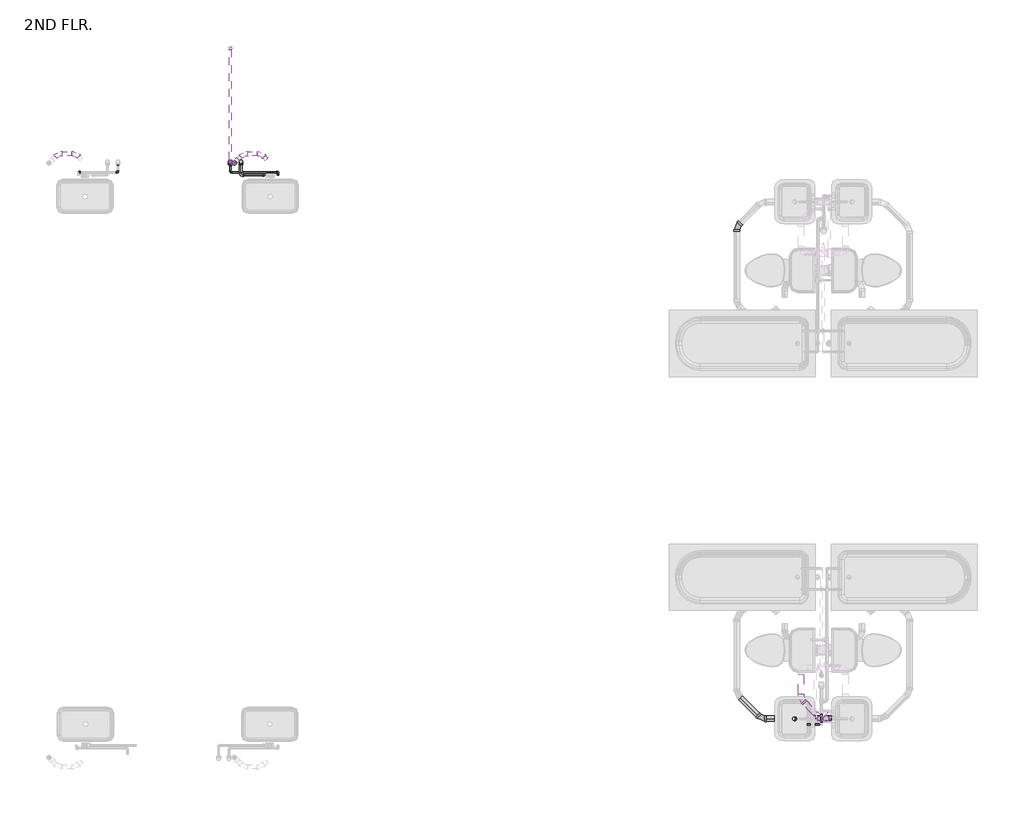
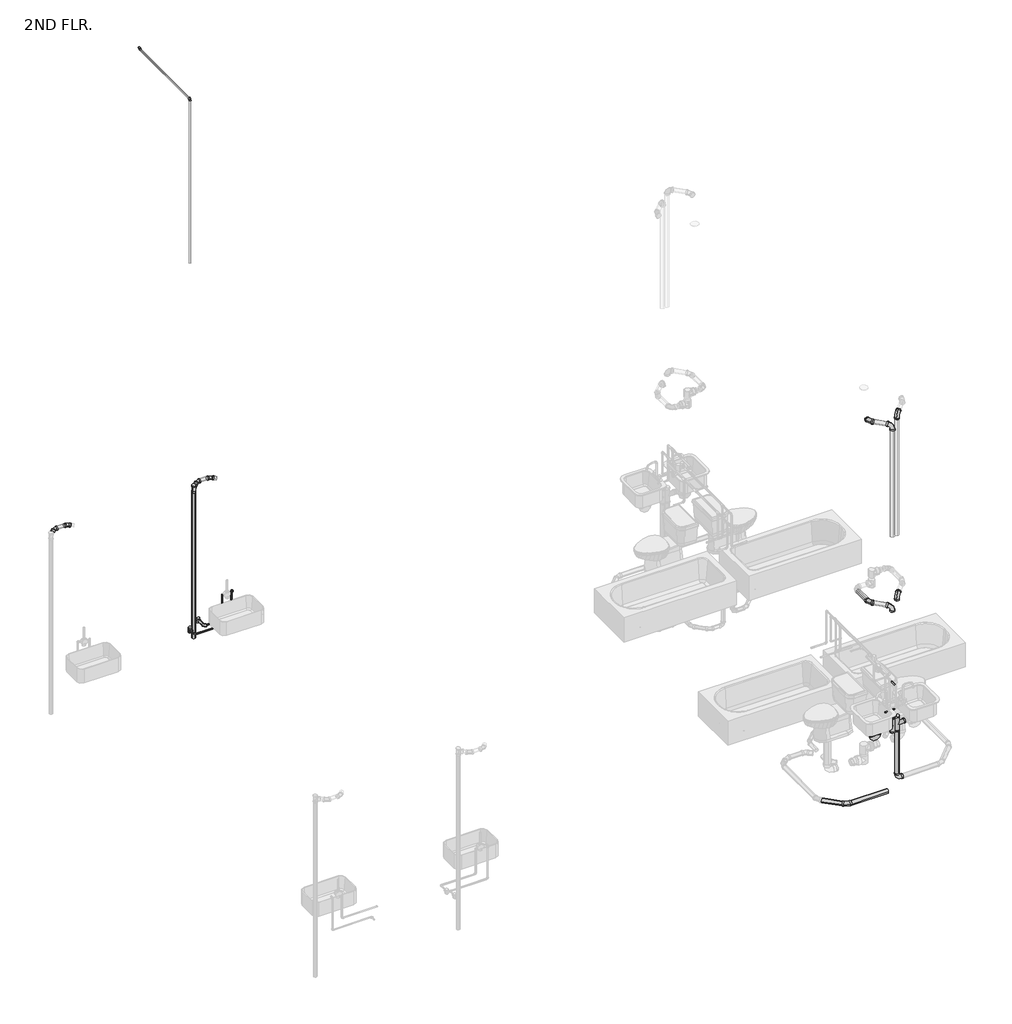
# One storey, part 9 of 15: 31 pipe fittings, 27 pipe segments.
"""IFC4 building model written with IfcOpenShell, lengths in millimetres."""

from ifc_helpers import new_model, si_unit, point, frame, frame_2d, origin, place, context, project, spatial, circle_curve, trimmed, segment, composite_curve, outline, extrude, transform, mapped, element, save
from ifc_brep_helpers import plane_surface, cylinder_surface, advanced_brep
from components import bend_pvc_sch_40_dwv_standard_e59a9f3a, bend_pvc_sch_40_dwv_standard_9b1ab2e2, bend_pvc_sch_40_dwv_standard_f2f5988a, bend_pvc_sch_40_dwv_standard_1eaeee76, bend_pvc_sch_40_dwv_standard_49f8c181, bend_pvc_sch_40_dwv_standard_f64d1520, ges_wye_45_deg_reducing_pvc_sch_40_dwv_standard_31e91cc2, ges_wye_45_deg_reducing_pvc_sch_40_dwv_standard_a2c526eb, pipe_elbow_copper_k_feaaf02c, pipe_elbow_copper_k_aad62f2d, pipe_elbow_copper_k_aee2f062, pipe_tee_copper_k_7127fd44, pipe_tee_copper_k_60c871d1, pipe_transition_copper_k_7553a2c5, pipe_transition_copper_k_0ad24bcb, pipe_transition_copper_k_4b29cc47, standard_73d07651, tee_sanitary_pvc_sch_40_dwv_standard_be04015c

model = new_model("IFC4")

# Units and contexts
model_context = context("Model", 3, world=origin())
ifc_project = project(units=[si_unit("LENGTHUNIT", "METRE", prefix="MILLI")], contexts=[model_context])

# Site, building, storey
site = spatial("IfcSite", under=ifc_project)
building = spatial("IfcBuilding", under=site)
storey = spatial("IfcBuildingStorey", under=building, Name="2ND FLR.", Elevation=2844.8)

# Pipe fittings
placement = place(None, origin())
bend_pvc_sch_40_dwv_standard_shape = bend_pvc_sch_40_dwv_standard_e59a9f3a(model_context)
element("IfcPipeFitting", 1, ObjectType="Bend - PVC - Sch 40 - DWV : Standard", at=placement, inside=storey, context=model_context, shape_type="MappedRepresentation", body=[
    mapped(bend_pvc_sch_40_dwv_standard_shape, transform((8361.3573795, 9017.693639, 5528.5325121), x_axis=(-0.7070684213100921, 0.7071067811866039, 0.007365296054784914), y_axis=(-0.7070684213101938, -0.7071067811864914, 0.007365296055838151), z_axis=(0.010416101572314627, 0.0, 0.9999457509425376))),
])
element("IfcPipeFitting", 2, ObjectType="Bend - PVC - Sch 40 - DWV : Standard", at=placement, inside=storey, context=model_context, shape_type="MappedRepresentation", body=[
    mapped(bend_pvc_sch_40_dwv_standard_shape, transform((10488.9508961, 9017.693639, 5528.5323192), x_axis=(-0.7070684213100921, 0.7071067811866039, 0.007365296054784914), y_axis=(-0.7070684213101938, -0.7071067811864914, 0.007365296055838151), z_axis=(0.010416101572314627, 0.0, 0.9999457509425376))),
])
bend_pvc_sch_40_dwv_standard_2_shape = bend_pvc_sch_40_dwv_standard_9b1ab2e2(model_context)
element("IfcPipeFitting", 3, ObjectType="Bend - PVC - Sch 40 - DWV : Standard", at=placement, inside=storey, context=model_context, shape_type="MappedRepresentation", body=[
    mapped(bend_pvc_sch_40_dwv_standard_2_shape, transform((8160.2854233, 9017.6936683, 5530.6337384), x_axis=(-0.9999457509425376, 0.0, 0.010416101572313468), y_axis=(4.542044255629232e-05, -0.9999904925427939, 0.004360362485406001), z_axis=(0.010416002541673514, 0.004360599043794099, 0.9999362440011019))),
])
element("IfcPipeFitting", 4, ObjectType="Bend - PVC - Sch 40 - DWV : Standard", at=placement, inside=storey, context=model_context, shape_type="MappedRepresentation", body=[
    mapped(bend_pvc_sch_40_dwv_standard_2_shape, transform((10287.7485788, 9017.6936704, 5530.6353945), x_axis=(-0.9999457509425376, 0.0, 0.010416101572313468), y_axis=(4.542044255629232e-05, -0.9999904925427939, 0.004360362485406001), z_axis=(0.010416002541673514, 0.004360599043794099, 0.9999362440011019))),
])
bend_pvc_sch_40_dwv_standard_3_shape = bend_pvc_sch_40_dwv_standard_f2f5988a(model_context)
element("IfcPipeFitting", 5, ObjectType="Bend - PVC - Sch 40 - DWV : Standard", at=placement, inside=storey, context=model_context, shape_type="MappedRepresentation", body=[
    mapped(bend_pvc_sch_40_dwv_standard_3_shape, transform((16231.2763671, 2535.4262323, 2303.4769275), x_axis=(0.7071067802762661, -0.7071067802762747, -5.074103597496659e-05), y_axis=(0.7071067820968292, 0.7071067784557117, 5.074103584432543e-05), z_axis=(0.0, -7.175866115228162e-05, 0.9999999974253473))),
])
element("IfcPipeFitting", 6, ObjectType="Bend - PVC - Sch 40 - DWV : Standard", at=placement, inside=storey, context=model_context, shape_type="MappedRepresentation", body=[
    mapped(bend_pvc_sch_40_dwv_standard_3_shape, transform((16688.3084874, 2755.8735933, 8039.0947608), x_axis=(2.761384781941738e-10, -0.9999999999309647, 1.1750347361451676e-05), y_axis=(0.9999999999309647, 1.3806781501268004e-10, -1.1750347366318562e-05), z_axis=(1.1750347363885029e-05, 1.175034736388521e-05, 0.9999999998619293))),
])
element("IfcPipeFitting", 7, ObjectType="Bend - PVC - Sch 40 - DWV : Standard", at=placement, inside=storey, context=model_context, shape_type="MappedRepresentation", body=[
    mapped(bend_pvc_sch_40_dwv_standard_3_shape, transform((16688.3084882, 2756.9013629, 5188.0113455), x_axis=(2.761384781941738e-10, -0.9999999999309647, 1.1750347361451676e-05), y_axis=(0.9999999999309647, 1.3806781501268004e-10, -1.1750347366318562e-05), z_axis=(1.1750347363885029e-05, 1.175034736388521e-05, 0.9999999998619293))),
])
bend_pvc_sch_40_dwv_standard_4_shape = bend_pvc_sch_40_dwv_standard_1eaeee76(model_context)
element("IfcPipeFitting", 8, ObjectType="Bend - PVC - Sch 40 - DWV : Standard", at=placement, inside=storey, context=model_context, shape_type="MappedRepresentation", body=[
    mapped(bend_pvc_sch_40_dwv_standard_4_shape, transform((16909.1822491, 2534.9998318, 8039.0947608), x_axis=(0.0, 0.0, 1.0), y_axis=(-0.7071067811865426, 0.7071067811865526, 0.0), z_axis=(-0.7071067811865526, -0.7071067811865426, 0.0))),
])
element("IfcPipeFitting", 9, ObjectType="Bend - PVC - Sch 40 - DWV : Standard", at=placement, inside=storey, context=model_context, shape_type="MappedRepresentation", body=[
    mapped(bend_pvc_sch_40_dwv_standard_4_shape, transform((16909.2449931, 2535.844278, 5187.9447608), x_axis=(0.0, 0.0, 1.0), y_axis=(-0.7071067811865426, 0.7071067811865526, 0.0), z_axis=(-0.7071067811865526, -0.7071067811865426, 0.0))),
])
bend_pvc_sch_40_dwv_standard_5_shape = bend_pvc_sch_40_dwv_standard_49f8c181(model_context)
element("IfcPipeFitting", 10, ObjectType="Bend - PVC - Sch 40 - DWV : Standard", at=placement, inside=storey, context=model_context, shape_type="MappedRepresentation", body=[
    mapped(bend_pvc_sch_40_dwv_standard_5_shape, transform((16975.4347258, 2535.4334771, 2461.1578227), x_axis=(0.0, 0.0, -1.0), y_axis=(-1.0, 0.0, 0.0), z_axis=(0.0, 1.0, 0.0))),
])
element("IfcPipeFitting", 11, ObjectType="Bend - PVC - Sch 40 - DWV : Standard", at=placement, inside=storey, context=model_context, shape_type="MappedRepresentation", body=[
    mapped(bend_pvc_sch_40_dwv_standard_5_shape, transform((16975.4348028, 2535.0251221, 8191.495709), x_axis=(0.0, 0.0, 1.0), y_axis=(-0.7071067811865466, -0.7071067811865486, 0.0), z_axis=(0.7071067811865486, -0.7071067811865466, 0.0))),
])
element("IfcPipeFitting", 12, ObjectType="Bend - PVC - Sch 40 - DWV : Standard", at=placement, inside=storey, context=model_context, shape_type="MappedRepresentation", body=[
    mapped(bend_pvc_sch_40_dwv_standard_5_shape, transform((16975.4348028, 2535.7814571, 5340.345709), x_axis=(0.0, 0.0, 1.0), y_axis=(-0.7071067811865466, -0.7071067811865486, 0.0), z_axis=(0.7071067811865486, -0.7071067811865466, 0.0))),
])
bend_pvc_sch_40_dwv_standard_6_shape = bend_pvc_sch_40_dwv_standard_f64d1520(model_context)
element("IfcPipeFitting", 13, ObjectType="Bend - PVC - Sch 40 - DWV : Standard", at=placement, inside=storey, context=model_context, shape_type="MappedRepresentation", body=[
    mapped(bend_pvc_sch_40_dwv_standard_6_shape, transform((15951.6578381, 8185.6790175, 2291.1952447), x_axis=(0.0, 1.0, 0.0), y_axis=(-0.9999999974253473, 0.0, 7.175866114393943e-05), z_axis=(7.175866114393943e-05, 0.0, 0.9999999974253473))),
])
ges_wye_45_deg_reducing_pvc_sch_40_dwv_standard_shape = ges_wye_45_deg_reducing_pvc_sch_40_dwv_standard_31e91cc2(model_context)
element("IfcPipeFitting", 14, ObjectType="GES Wye 45 Deg Reducing - PVC - Sch 40 - DWV : Standard", at=placement, inside=storey, context=model_context, shape_type="MappedRepresentation", body=[
    mapped(ges_wye_45_deg_reducing_pvc_sch_40_dwv_standard_shape, transform((16909.1822491, 2535.781534, 3322.6721683), x_axis=(0.0, 0.0, 1.0), y_axis=(1.0, 0.0, 0.0), z_axis=(0.0, 1.0, 0.0))),
])
ges_wye_45_deg_reducing_pvc_sch_40_dwv_standard_2_shape = ges_wye_45_deg_reducing_pvc_sch_40_dwv_standard_a2c526eb(model_context)
element("IfcPipeFitting", 15, ObjectType="GES Wye 45 Deg Reducing - PVC - Sch 40 - DWV : Standard", at=placement, inside=storey, context=model_context, shape_type="MappedRepresentation", body=[
    mapped(ges_wye_45_deg_reducing_pvc_sch_40_dwv_standard_2_shape, transform((16975.4347258, 2535.4334771, 3322.6721683), x_axis=(0.0, 0.0, 1.0), y_axis=(1.0, 0.0, 0.0), z_axis=(0.0, 1.0, 0.0))),
])
pipe_elbow_copper_k_shape = pipe_elbow_copper_k_feaaf02c(model_context)
element("IfcPipeFitting", 16, ObjectType="Pipe Elbow : Copper- K", at=placement, inside=storey, context=model_context, shape_type="MappedRepresentation", body=[
    mapped(pipe_elbow_copper_k_shape, transform((10136.7487434, 8927.8175381, 11660.0882812), x_axis=(0.0, 0.0, 1.0), y_axis=(0.0, 1.0, 0.0), z_axis=(-1.0, 0.0, 0.0))),
])
element("IfcPipeFitting", 17, ObjectType="Pipe Elbow : Copper- K", at=placement, inside=storey, context=model_context, shape_type="MappedRepresentation", body=[
    mapped(pipe_elbow_copper_k_shape, transform((10136.7487434, 10234.3300381, 11660.0882812), x_axis=(0.0, 1.0, 0.0), y_axis=(0.0, 0.0, 1.0), z_axis=(1.0, 0.0, 0.0))),
])
pipe_elbow_copper_k_2_shape = pipe_elbow_copper_k_aad62f2d(model_context)
element("IfcPipeFitting", 18, ObjectType="Pipe Elbow : Copper- K", at=placement, inside=storey, context=model_context, shape_type="MappedRepresentation", body=[
    mapped(pipe_elbow_copper_k_2_shape, transform((8392.4641516, 8806.2157662, 3307.0601563), x_axis=(0.0, 0.0, -1.0), y_axis=(1.0, 0.0, 0.0), z_axis=(0.0, -1.0, 0.0))),
])
element("IfcPipeFitting", 19, ObjectType="Pipe Elbow : Copper- K", at=placement, inside=storey, context=model_context, shape_type="MappedRepresentation", body=[
    mapped(pipe_elbow_copper_k_2_shape, transform((8845.7410297, 8806.2157662, 3307.0601563), x_axis=(1.0, 0.0, 0.0), y_axis=(0.0, 1.0, 0.0), z_axis=(0.0, 0.0, 1.0))),
])
element("IfcPipeFitting", 20, ObjectType="Pipe Elbow : Copper- K", at=placement, inside=storey, context=model_context, shape_type="MappedRepresentation", body=[
    mapped(pipe_elbow_copper_k_2_shape, transform((10682.8459876, 8806.2157662, 3815.0601562), x_axis=(0.0, 0.0, 1.0), y_axis=(0.0, -1.0, 0.0), z_axis=(1.0, 0.0, 0.0))),
])
element("IfcPipeFitting", 21, ObjectType="Pipe Elbow : Copper- K", at=placement, inside=storey, context=model_context, shape_type="MappedRepresentation", body=[
    mapped(pipe_elbow_copper_k_2_shape, transform((10525.5938015, 8774.1278432, 3418.8796883), x_axis=(0.0, 0.0, -1.0), y_axis=(-1.0, 0.0, 0.0), z_axis=(0.0, 1.0, 0.0))),
])
element("IfcPipeFitting", 22, ObjectType="Pipe Elbow : Copper- K", at=placement, inside=storey, context=model_context, shape_type="MappedRepresentation", body=[
    mapped(pipe_elbow_copper_k_2_shape, transform((10136.7487434, 8806.2157662, 3307.0601563), x_axis=(0.0, -1.0, 0.0), y_axis=(1.0, 0.0, 0.0), z_axis=(0.0, 0.0, 1.0))),
])
element("IfcPipeFitting", 23, ObjectType="Pipe Elbow : Copper- K", at=placement, inside=storey, context=model_context, shape_type="MappedRepresentation", body=[
    mapped(pipe_elbow_copper_k_2_shape, transform((10682.8459876, 8806.2157662, 3307.0601563), x_axis=(0.0, 0.0, -1.0), y_axis=(-1.0, 0.0, 0.0), z_axis=(0.0, 1.0, 0.0))),
])
pipe_elbow_copper_k_3_shape = pipe_elbow_copper_k_aee2f062(model_context)
element("IfcPipeFitting", 24, ObjectType="Pipe Elbow : Copper- K", at=placement, inside=storey, context=model_context, shape_type="MappedRepresentation", body=[
    mapped(pipe_elbow_copper_k_3_shape, transform((10257.4812856, 8774.1278432, 3418.8796883), x_axis=(0.0, -1.0, 0.0), y_axis=(1.0, 0.0, 0.0), z_axis=(0.0, 0.0, 1.0))),
])
pipe_tee_copper_k_shape = pipe_tee_copper_k_7127fd44(model_context)
element("IfcPipeFitting", 25, ObjectType="Pipe Tee : Copper- K", at=placement, inside=storey, context=model_context, shape_type="MappedRepresentation", body=[
    mapped(pipe_tee_copper_k_shape, transform((10136.7487434, 8927.8175381, 3307.0601563), x_axis=(0.0, 0.0, 1.0), y_axis=(0.0, 1.0, 0.0), z_axis=(-1.0, 0.0, 0.0))),
])
pipe_tee_copper_k_2_shape = pipe_tee_copper_k_60c871d1(model_context)
element("IfcPipeFitting", 26, ObjectType="Pipe Tee : Copper- K", at=placement, inside=storey, context=model_context, shape_type="MappedRepresentation", body=[
    mapped(pipe_tee_copper_k_2_shape, transform((10257.4812856, 8927.8175381, 3418.8796883), x_axis=(0.0, 0.0, 1.0), y_axis=(0.0, 1.0, 0.0), z_axis=(-1.0, 0.0, 0.0))),
])
pipe_transition_copper_k_shape = pipe_transition_copper_k_7553a2c5(model_context)
element("IfcPipeFitting", 27, ObjectType="Pipe Transition : Copper- K", at=placement, inside=storey, context=model_context, shape_type="MappedRepresentation", body=[
    mapped(pipe_transition_copper_k_shape, transform((10284.4687856, 8774.1278432, 3418.8796883), x_axis=(1.0, 0.0, 0.0), y_axis=(0.0, 1.0, 0.0), z_axis=(0.0, 0.0, 1.0))),
])
pipe_transition_copper_k_2_shape = pipe_transition_copper_k_0ad24bcb(model_context)
element("IfcPipeFitting", 28, ObjectType="Pipe Transition : Copper- K", at=placement, inside=storey, context=model_context, shape_type="MappedRepresentation", body=[
    mapped(pipe_transition_copper_k_2_shape, transform((10136.7487434, 8891.3050381, 3307.0601563), x_axis=(0.0, -1.0, 0.0), y_axis=(1.0, 0.0, 0.0), z_axis=(0.0, 0.0, 1.0))),
])
pipe_transition_copper_k_3_shape = pipe_transition_copper_k_4b29cc47(model_context)
element("IfcPipeFitting", 29, ObjectType="Pipe Transition : Copper- K", at=placement, inside=storey, context=model_context, shape_type="MappedRepresentation", body=[
    mapped(pipe_transition_copper_k_3_shape, transform((8845.7410297, 8894.4800381, 3307.0601563), x_axis=(0.0, -1.0, 0.0), y_axis=(1.0, 0.0, 0.0), z_axis=(0.0, 0.0, 1.0))),
])
standard_shape = standard_73d07651(model_context)
element("IfcPipeFitting", 30, ObjectType="GES P TRAP PVC Sch 40 - DWV : Standard", at=placement, inside=storey, context=model_context, shape_type="MappedRepresentation", body=[
    mapped(standard_shape, transform((16589.3699643, 2535.781534, 3322.6721683), x_axis=(0.0, 0.0, -1.0), y_axis=(1.0, 0.0, 0.0), z_axis=(0.0, -1.0, 0.0))),
])
tee_sanitary_pvc_sch_40_dwv_standard_shape = tee_sanitary_pvc_sch_40_dwv_standard_be04015c(model_context)
element("IfcPipeFitting", 31, ObjectType="Tee Sanitary - PVC - Sch 40 - DWV : Standard", at=placement, inside=storey, context=model_context, shape_type="MappedRepresentation", body=[
    mapped(tee_sanitary_pvc_sch_40_dwv_standard_shape, transform((10181.640043, 8912.4094236, 5532.1998234), x_axis=(0.0, 0.0, 1.0), y_axis=(-0.7098586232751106, -0.7043441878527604, 0.0), z_axis=(0.7043441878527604, -0.7098586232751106, 0.0))),
])

# Pipe segments
element("IfcPipeSegment", 32, ObjectType="Copper", at=placement, inside=storey, context=model_context, shape_type="SweptSolid", body=[
    extrude(outline(composite_curve([segment(trimmed(circle_curve(frame_2d((10136.7487434, 8927.8175381)), 11.1125), [point((10125.6362434, 8927.8175381))], [point((10136.7487434, 8938.9300381))], False, "CARTESIAN"), True, "CONTINUOUS"), segment(trimmed(circle_curve(frame_2d((10136.7487434, 8927.8175381)), 11.1125), [point((10136.7487434, 8938.9300381))], [point((10147.8612434, 8927.8175381))], False, "CARTESIAN"), True, "CONTINUOUS"), segment(trimmed(circle_curve(frame_2d((10136.7487434, 8927.8175381)), 11.1125), [point((10147.8612434, 8927.8175381))], [point((10136.7487434, 8916.7050381))], False, "CARTESIAN"), True, "CONTINUOUS"), segment(trimmed(circle_curve(frame_2d((10136.7487434, 8927.8175381)), 11.1125), [point((10136.7487434, 8916.7050381))], [point((10125.6362434, 8927.8175381))], False, "CARTESIAN"), True, "CONTINUOUS")], self_intersect=False)), frame((0.0, 0.0, 9079.6070313), z_axis=(0.0, 0.0, 1.0), x_axis=(1.0, 0.0, 0.0)), (0.0, 0.0, 1.0), 2559.84375),
])
element("IfcPipeSegment", 33, ObjectType="Copper", at=placement, inside=storey, context=model_context, shape_type="SweptSolid", body=[
    extrude(outline(composite_curve([segment(trimmed(circle_curve(frame_2d((11660.0882813, 10136.7487434)), 11.1125), [point((11660.0882813, 10147.8612434))], [point((11671.2007813, 10136.7487434))], False, "CARTESIAN"), True, "CONTINUOUS"), segment(trimmed(circle_curve(frame_2d((11660.0882813, 10136.7487434)), 11.1125), [point((11671.2007813, 10136.7487434))], [point((11660.0882813, 10125.6362434))], False, "CARTESIAN"), True, "CONTINUOUS"), segment(trimmed(circle_curve(frame_2d((11660.0882813, 10136.7487434)), 11.1125), [point((11660.0882813, 10125.6362434))], [point((11648.9757813, 10136.7487434))], False, "CARTESIAN"), True, "CONTINUOUS"), segment(trimmed(circle_curve(frame_2d((11660.0882813, 10136.7487434)), 11.1125), [point((11648.9757813, 10136.7487434))], [point((11660.0882813, 10147.8612434))], False, "CARTESIAN"), True, "CONTINUOUS")], self_intersect=False)), frame((0.0, 8948.4550381, 0.0), z_axis=(0.0, 1.0, 0.0), x_axis=(0.0, 0.0, 1.0)), (0.0, 0.0, 1.0), 1265.2375),
])
element("IfcPipeSegment", 34, ObjectType="Copper", at=placement, inside=storey, context=model_context, shape_type="SweptSolid", body=[
    extrude(outline(composite_curve([segment(trimmed(circle_curve(frame_2d((3962.4, 16920.4834875)), 7.9375), [point((3962.4, 16912.5459875))], [point((3954.4625, 16920.4834875))], False, "CARTESIAN"), True, "CONTINUOUS"), segment(trimmed(circle_curve(frame_2d((3962.4, 16920.4834875)), 7.9375), [point((3954.4625, 16920.4834875))], [point((3962.4, 16928.4209875))], False, "CARTESIAN"), True, "CONTINUOUS"), segment(trimmed(circle_curve(frame_2d((3962.4, 16920.4834875)), 7.9375), [point((3962.4, 16928.4209875))], [point((3970.3375, 16920.4834875))], False, "CARTESIAN"), True, "CONTINUOUS"), segment(trimmed(circle_curve(frame_2d((3962.4, 16920.4834875)), 7.9375), [point((3970.3375, 16920.4834875))], [point((3962.4, 16912.5459875))], False, "CARTESIAN"), True, "CONTINUOUS")], self_intersect=False)), frame((0.0, 2485.6574561, 0.0), z_axis=(0.0, 1.0, 0.0), x_axis=(0.0, 0.0, 1.0)), (0.0, 0.0, 1.0), 102.6523264),
])
element("IfcPipeSegment", 35, ObjectType="Copper", at=placement, inside=storey, context=model_context, shape_type="SweptSolid", body=[
    extrude(outline(composite_curve([segment(trimmed(circle_curve(frame_2d((2468.1949561, 3606.8)), 7.9375), [point((2476.1324561, 3606.8))], [point((2468.1949561, 3598.8625))], False, "CARTESIAN"), True, "CONTINUOUS"), segment(trimmed(circle_curve(frame_2d((2468.1949561, 3606.8)), 7.9375), [point((2468.1949561, 3598.8625))], [point((2460.2574561, 3606.8))], False, "CARTESIAN"), True, "CONTINUOUS"), segment(trimmed(circle_curve(frame_2d((2468.1949561, 3606.8)), 7.9375), [point((2460.2574561, 3606.8))], [point((2468.1949561, 3614.7375))], False, "CARTESIAN"), True, "CONTINUOUS"), segment(trimmed(circle_curve(frame_2d((2468.1949561, 3606.8)), 7.9375), [point((2468.1949561, 3614.7375))], [point((2476.1324561, 3606.8))], False, "CARTESIAN"), True, "CONTINUOUS")], self_intersect=False)), frame((16758.5584875, 0.0, 0.0), z_axis=(1.0, 0.0, 0.0), x_axis=(0.0, 1.0, 0.0)), (0.0, 0.0, 1.0), 144.4625),
])
element("IfcPipeSegment", 36, ObjectType="Copper", at=placement, inside=storey, context=model_context, shape_type="SweptSolid", body=[
    extrude(outline(composite_curve([segment(trimmed(circle_curve(frame_2d((3815.0601563, 10682.8459876)), 7.9375), [point((3815.0601563, 10674.9084876))], [point((3807.1226563, 10682.8459876))], False, "CARTESIAN"), True, "CONTINUOUS"), segment(trimmed(circle_curve(frame_2d((3815.0601563, 10682.8459876)), 7.9375), [point((3807.1226563, 10682.8459876))], [point((3815.0601563, 10690.7834876))], False, "CARTESIAN"), True, "CONTINUOUS"), segment(trimmed(circle_curve(frame_2d((3815.0601563, 10682.8459876)), 7.9375), [point((3815.0601563, 10690.7834876))], [point((3822.9976563, 10682.8459876))], False, "CARTESIAN"), True, "CONTINUOUS"), segment(trimmed(circle_curve(frame_2d((3815.0601563, 10682.8459876)), 7.9375), [point((3822.9976563, 10682.8459876))], [point((3815.0601563, 10674.9084876))], False, "CARTESIAN"), True, "CONTINUOUS")], self_intersect=False)), frame((0.0, 8771.4354504, 0.0), z_axis=(0.0, 1.0, 0.0), x_axis=(0.0, 0.0, 1.0)), (0.0, 0.0, 1.0), 17.3178158),
])
element("IfcPipeSegment", 37, ObjectType="Copper", at=placement, inside=storey, context=model_context, shape_type="SweptSolid", body=[
    extrude(outline(composite_curve([segment(trimmed(circle_curve(frame_2d((8774.1278432, 3418.8796883)), 7.9375), [point((8766.1903432, 3418.8796883))], [point((8774.1278432, 3426.8171883))], False, "CARTESIAN"), True, "CONTINUOUS"), segment(trimmed(circle_curve(frame_2d((8774.1278432, 3418.8796883)), 7.9375), [point((8774.1278432, 3426.8171883))], [point((8782.0653432, 3418.8796883))], False, "CARTESIAN"), True, "CONTINUOUS"), segment(trimmed(circle_curve(frame_2d((8774.1278432, 3418.8796883)), 7.9375), [point((8782.0653432, 3418.8796883))], [point((8774.1278432, 3410.9421883))], False, "CARTESIAN"), True, "CONTINUOUS"), segment(trimmed(circle_curve(frame_2d((8774.1278432, 3418.8796883)), 7.9375), [point((8774.1278432, 3410.9421883))], [point((8766.1903432, 3418.8796883))], False, "CARTESIAN"), True, "CONTINUOUS")], self_intersect=False)), frame((10293.2000356, 0.0, 0.0), z_axis=(1.0, 0.0, 0.0), x_axis=(0.0, 1.0, 0.0)), (0.0, 0.0, 1.0), 214.9312659),
])
element("IfcPipeSegment", 38, ObjectType="Copper", at=placement, inside=storey, context=model_context, shape_type="SweptSolid", body=[
    extrude(outline(composite_curve([segment(trimmed(circle_curve(frame_2d((10525.5938015, 8774.1278432)), 7.9375), [point((10517.6563015, 8774.1278432))], [point((10525.5938015, 8782.0653432))], False, "CARTESIAN"), True, "CONTINUOUS"), segment(trimmed(circle_curve(frame_2d((10525.5938015, 8774.1278432)), 7.9375), [point((10525.5938015, 8782.0653432))], [point((10533.5313015, 8774.1278432))], False, "CARTESIAN"), True, "CONTINUOUS"), segment(trimmed(circle_curve(frame_2d((10525.5938015, 8774.1278432)), 7.9375), [point((10533.5313015, 8774.1278432))], [point((10525.5938015, 8766.1903432))], False, "CARTESIAN"), True, "CONTINUOUS"), segment(trimmed(circle_curve(frame_2d((10525.5938015, 8774.1278432)), 7.9375), [point((10525.5938015, 8766.1903432))], [point((10517.6563015, 8774.1278432))], False, "CARTESIAN"), True, "CONTINUOUS")], self_intersect=False)), frame((0.0, 0.0, 3436.3421883), z_axis=(0.0, 0.0, 1.0), x_axis=(1.0, 0.0, 0.0)), (0.0, 0.0, 1.0), 378.7179679),
])
element("IfcPipeSegment", 39, ObjectType="Copper", at=placement, inside=storey, context=model_context, shape_type="SweptSolid", body=[
    extrude(outline(composite_curve([segment(trimmed(circle_curve(frame_2d((8806.2157662, 3307.0601563)), 7.9375), [point((8798.2782662, 3307.0601563))], [point((8806.2157662, 3314.9976563))], False, "CARTESIAN"), True, "CONTINUOUS"), segment(trimmed(circle_curve(frame_2d((8806.2157662, 3307.0601563)), 7.9375), [point((8806.2157662, 3314.9976563))], [point((8814.1532662, 3307.0601563))], False, "CARTESIAN"), True, "CONTINUOUS"), segment(trimmed(circle_curve(frame_2d((8806.2157662, 3307.0601563)), 7.9375), [point((8814.1532662, 3307.0601563))], [point((8806.2157662, 3299.1226563))], False, "CARTESIAN"), True, "CONTINUOUS"), segment(trimmed(circle_curve(frame_2d((8806.2157662, 3307.0601563)), 7.9375), [point((8806.2157662, 3299.1226563))], [point((8798.2782662, 3307.0601563))], False, "CARTESIAN"), True, "CONTINUOUS")], self_intersect=False)), frame((10154.2112434, 0.0, 0.0), z_axis=(1.0, 0.0, 0.0), x_axis=(0.0, 1.0, 0.0)), (0.0, 0.0, 1.0), 511.1722442),
])
element("IfcPipeSegment", 40, ObjectType="Copper", at=placement, inside=storey, context=model_context, shape_type="SweptSolid", body=[
    extrude(outline(composite_curve([segment(trimmed(circle_curve(frame_2d((10682.8459876, 8806.2157662)), 7.9375), [point((10674.9084876, 8806.2157662))], [point((10682.8459876, 8814.1532662))], False, "CARTESIAN"), True, "CONTINUOUS"), segment(trimmed(circle_curve(frame_2d((10682.8459876, 8806.2157662)), 7.9375), [point((10682.8459876, 8814.1532662))], [point((10690.7834876, 8806.2157662))], False, "CARTESIAN"), True, "CONTINUOUS"), segment(trimmed(circle_curve(frame_2d((10682.8459876, 8806.2157662)), 7.9375), [point((10690.7834876, 8806.2157662))], [point((10682.8459876, 8798.2782662))], False, "CARTESIAN"), True, "CONTINUOUS"), segment(trimmed(circle_curve(frame_2d((10682.8459876, 8806.2157662)), 7.9375), [point((10682.8459876, 8798.2782662))], [point((10674.9084876, 8806.2157662))], False, "CARTESIAN"), True, "CONTINUOUS")], self_intersect=False)), frame((0.0, 0.0, 3324.5226563), z_axis=(0.0, 0.0, 1.0), x_axis=(1.0, 0.0, 0.0)), (0.0, 0.0, 1.0), 473.075),
])
element("IfcPipeSegment", 41, ObjectType="Copper", at=placement, inside=storey, context=model_context, shape_type="SweptSolid", body=[
    extrude(outline(composite_curve([segment(trimmed(circle_curve(frame_2d((3418.8796883, 10257.4812856)), 17.4625), [point((3418.8796883, 10240.0187856))], [point((3401.4171883, 10257.4812856))], False, "CARTESIAN"), True, "CONTINUOUS"), segment(trimmed(circle_curve(frame_2d((3418.8796883, 10257.4812856)), 17.4625), [point((3401.4171883, 10257.4812856))], [point((3418.8796883, 10274.9437856))], False, "CARTESIAN"), True, "CONTINUOUS"), segment(trimmed(circle_curve(frame_2d((3418.8796883, 10257.4812856)), 17.4625), [point((3418.8796883, 10274.9437856))], [point((3436.3421883, 10257.4812856))], False, "CARTESIAN"), True, "CONTINUOUS"), segment(trimmed(circle_curve(frame_2d((3418.8796883, 10257.4812856)), 17.4625), [point((3436.3421883, 10257.4812856))], [point((3418.8796883, 10240.0187856))], False, "CARTESIAN"), True, "CONTINUOUS")], self_intersect=False)), frame((0.0, 8801.1153432, 0.0), z_axis=(0.0, 1.0, 0.0), x_axis=(0.0, 0.0, 1.0)), (0.0, 0.0, 1.0), 93.3646948),
])
element("IfcPipeSegment", 42, ObjectType="Copper", at=placement, inside=storey, context=model_context, shape_type="SweptSolid", body=[
    extrude(outline(composite_curve([segment(trimmed(circle_curve(frame_2d((3307.0601563, 10136.7487434)), 7.9375), [point((3307.0601563, 10128.8112434))], [point((3299.1226563, 10136.7487434))], False, "CARTESIAN"), True, "CONTINUOUS"), segment(trimmed(circle_curve(frame_2d((3307.0601563, 10136.7487434)), 7.9375), [point((3299.1226563, 10136.7487434))], [point((3307.0601563, 10144.6862434))], False, "CARTESIAN"), True, "CONTINUOUS"), segment(trimmed(circle_curve(frame_2d((3307.0601563, 10136.7487434)), 7.9375), [point((3307.0601563, 10144.6862434))], [point((3314.9976563, 10136.7487434))], False, "CARTESIAN"), True, "CONTINUOUS"), segment(trimmed(circle_curve(frame_2d((3307.0601563, 10136.7487434)), 7.9375), [point((3314.9976563, 10136.7487434))], [point((3307.0601563, 10128.8112434))], False, "CARTESIAN"), True, "CONTINUOUS")], self_intersect=False)), frame((0.0, 8823.6782662, 0.0), z_axis=(0.0, 1.0, 0.0), x_axis=(0.0, 0.0, 1.0)), (0.0, 0.0, 1.0), 57.3080218),
])
element("IfcPipeSegment", 43, ObjectType="PVC - SAN/STORM", at=placement, inside=storey, context=model_context, shape_type="SweptSolid", body=[
    extrude(outline(composite_curve([segment(trimmed(circle_curve(frame_2d((0.0, 24.13)), 24.13), [point((0.0006196, 48.26))], [point((24.13, 24.1293804))], False, "CARTESIAN"), True, "CONTINUOUS"), segment(trimmed(circle_curve(frame_2d((0.0, 24.13)), 24.13), [point((24.13, 24.1293804))], [point((-0.0006195, 0.0))], False, "CARTESIAN"), True, "CONTINUOUS"), segment(trimmed(circle_curve(frame_2d((0.0, 24.13)), 24.13), [point((-0.0006195, 0.0))], [point((-24.13, 24.1306195))], False, "CARTESIAN"), True, "CONTINUOUS"), segment(trimmed(circle_curve(frame_2d((0.0, 24.13)), 24.13), [point((-24.13, 24.1306195))], [point((0.0006196, 48.26))], False, "CARTESIAN"), True, "CONTINUOUS")], self_intersect=False)), frame((8315.3350763, 8993.563639, 5529.0125306), z_axis=(-0.999945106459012, 2.6901267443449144e-07, 0.010477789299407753), x_axis=(0.010477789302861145, 2.5673154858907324e-05, 0.9999451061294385)), (0.0, 0.0, 1.0), 109.033335),
])
element("IfcPipeSegment", 44, ObjectType="PVC - SAN/STORM", at=placement, inside=storey, context=model_context, shape_type="SweptSolid", body=[
    extrude(outline(composite_curve([segment(trimmed(circle_curve(frame_2d((0.0, 24.13)), 24.13), [point((24.1293456, 24.3077101))], [point((0.1777101, 0.0006544))], False, "CARTESIAN"), True, "CONTINUOUS"), segment(trimmed(circle_curve(frame_2d((0.0, 24.13)), 24.13), [point((0.1777101, 0.0006544))], [point((-24.1293456, 23.9522899))], False, "CARTESIAN"), True, "CONTINUOUS"), segment(trimmed(circle_curve(frame_2d((0.0, 24.13)), 24.13), [point((-24.1293456, 23.9522899))], [point((-0.1777101, 48.2593456))], False, "CARTESIAN"), True, "CONTINUOUS"), segment(trimmed(circle_curve(frame_2d((0.0, 24.13)), 24.13), [point((-0.1777101, 48.2593456))], [point((24.1293456, 24.3077101))], False, "CARTESIAN"), True, "CONTINUOUS")], self_intersect=False)), frame((10551.3413086, 8955.0485148, 5552.0111102), z_axis=(-0.707068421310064, 0.7071067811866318, 0.007365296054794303), x_axis=(0.7071451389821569, 0.7070300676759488, 0.007364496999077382)), (0.0, 0.0, 1.0), 42.2133542),
])
element("IfcPipeSegment", 45, ObjectType="PVC - SAN/STORM", at=placement, inside=storey, context=model_context, shape_type="SweptSolid", body=[
    extrude(outline(composite_curve([segment(trimmed(circle_curve(frame_2d((0.0, 24.13)), 24.13), [point((0.0006637, 48.26))], [point((24.13, 24.1293363))], False, "CARTESIAN"), True, "CONTINUOUS"), segment(trimmed(circle_curve(frame_2d((0.0, 24.13)), 24.13), [point((24.13, 24.1293363))], [point((-0.0006637, 0.0))], False, "CARTESIAN"), True, "CONTINUOUS"), segment(trimmed(circle_curve(frame_2d((0.0, 24.13)), 24.13), [point((-0.0006637, 0.0))], [point((-24.13, 24.1306637))], False, "CARTESIAN"), True, "CONTINUOUS"), segment(trimmed(circle_curve(frame_2d((0.0, 24.13)), 24.13), [point((-24.13, 24.1306637))], [point((0.0006637, 48.26))], False, "CARTESIAN"), True, "CONTINUOUS")], self_intersect=False)), frame((10442.9285929, 8993.563639, 5529.0123819), z_axis=(-0.9999450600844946, 2.883087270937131e-07, 0.010482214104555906), x_axis=(0.010482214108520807, 2.7503052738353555e-05, 0.9999450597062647)), (0.0, 0.0, 1.0), 109.1637084),
])
element("IfcPipeSegment", 46, ObjectType="PVC - SAN/STORM", at=placement, inside=storey, context=model_context, shape_type="SweptSolid", body=[
    extrude(outline(composite_curve([segment(trimmed(circle_curve(frame_2d((0.0, 24.13)), 24.13), [point((-24.128658, 24.3844918))], [point((0.2544917, 48.2586579))], False, "CARTESIAN"), True, "CONTINUOUS"), segment(trimmed(circle_curve(frame_2d((0.0, 24.13)), 24.13), [point((0.2544917, 48.2586579))], [point((24.1286579, 23.8755083))], False, "CARTESIAN"), True, "CONTINUOUS"), segment(trimmed(circle_curve(frame_2d((0.0, 24.13)), 24.13), [point((24.1286579, 23.8755083))], [point((-0.2544917, 0.001342))], False, "CARTESIAN"), True, "CONTINUOUS"), segment(trimmed(circle_curve(frame_2d((0.0, 24.13)), 24.13), [point((-0.2544917, 0.001342))], [point((-24.128658, 24.3844918))], False, "CARTESIAN"), True, "CONTINUOUS")], self_intersect=False)), frame((10255.0792668, 8984.9196349, 5506.9897234), z_axis=(-0.709819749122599, -0.7043056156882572, 0.010465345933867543), x_axis=(0.7043833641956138, -0.7097414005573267, 0.010546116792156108)), (0.0, 0.0, 1.0), 41.5619928),
])
element("IfcPipeSegment", 47, ObjectType="PVC - SAN/STORM", at=placement, inside=storey, context=model_context, shape_type="SweptSolid", body=[
    extrude(outline(composite_curve([segment(trimmed(circle_curve(frame_2d((10181.640043, 8912.4094236)), 24.13), [point((10205.770043, 8912.4094236))], [point((10181.640043, 8888.2794236))], False, "CARTESIAN"), True, "CONTINUOUS"), segment(trimmed(circle_curve(frame_2d((10181.640043, 8912.4094236)), 24.13), [point((10181.640043, 8888.2794236))], [point((10157.510043, 8912.4094236))], False, "CARTESIAN"), True, "CONTINUOUS"), segment(trimmed(circle_curve(frame_2d((10181.640043, 8912.4094236)), 24.13), [point((10157.510043, 8912.4094236))], [point((10181.640043, 8936.5394236))], False, "CARTESIAN"), True, "CONTINUOUS"), segment(trimmed(circle_curve(frame_2d((10181.640043, 8912.4094236)), 24.13), [point((10181.640043, 8936.5394236))], [point((10205.770043, 8912.4094236))], False, "CARTESIAN"), True, "CONTINUOUS")], self_intersect=False)), frame((0.0, 0.0, 3178.2373543), z_axis=(0.0, 0.0, 1.0), x_axis=(1.0, 0.0, 0.0)), (0.0, 0.0, 1.0), 2292.0626692),
])
element("IfcPipeSegment", 48, ObjectType="PVC - SAN/STORM", at=placement, inside=storey, context=model_context, shape_type="SweptSolid", body=[
    extrude(outline(composite_curve([segment(trimmed(circle_curve(frame_2d((16975.4347258, 2535.4334771)), 30.1625), [point((17005.5972258, 2535.4334771))], [point((16975.4347258, 2505.2709771))], False, "CARTESIAN"), True, "CONTINUOUS"), segment(trimmed(circle_curve(frame_2d((16975.4347258, 2535.4334771)), 30.1625), [point((16975.4347258, 2505.2709771))], [point((16945.2722258, 2535.4334771))], False, "CARTESIAN"), True, "CONTINUOUS"), segment(trimmed(circle_curve(frame_2d((16975.4347258, 2535.4334771)), 30.1625), [point((16945.2722258, 2535.4334771))], [point((16975.4347258, 2565.5959771))], False, "CARTESIAN"), True, "CONTINUOUS"), segment(trimmed(circle_curve(frame_2d((16975.4347258, 2535.4334771)), 30.1625), [point((16975.4347258, 2565.5959771))], [point((17005.5972258, 2535.4334771))], False, "CARTESIAN"), True, "CONTINUOUS")], self_intersect=False)), frame((0.0, 0.0, 2538.9580227), z_axis=(0.0, 0.0, 1.0), x_axis=(1.0, 0.0, 0.0)), (0.0, 0.0, 1.0), 665.0882081),
])
element("IfcPipeSegment", 49, ObjectType="PVC - SAN/STORM", at=placement, inside=storey, context=model_context, shape_type="SweptSolid", body=[
    extrude(outline(composite_curve([segment(trimmed(circle_curve(frame_2d((2535.781534, 3322.6721683)), 30.1625), [point((2505.619034, 3322.6721683))], [point((2535.781534, 3352.8346683))], False, "CARTESIAN"), True, "CONTINUOUS"), segment(trimmed(circle_curve(frame_2d((2535.781534, 3322.6721683)), 30.1625), [point((2535.781534, 3352.8346683))], [point((2565.944034, 3322.6721683))], False, "CARTESIAN"), True, "CONTINUOUS"), segment(trimmed(circle_curve(frame_2d((2535.781534, 3322.6721683)), 30.1625), [point((2565.944034, 3322.6721683))], [point((2535.781534, 3292.5096683))], False, "CARTESIAN"), True, "CONTINUOUS"), segment(trimmed(circle_curve(frame_2d((2535.781534, 3322.6721683)), 30.1625), [point((2535.781534, 3292.5096683))], [point((2505.619034, 3322.6721683))], False, "CARTESIAN"), True, "CONTINUOUS")], self_intersect=False)), frame((16781.4574643, 0.0, 0.0), z_axis=(1.0, 0.0, 0.0), x_axis=(0.0, 1.0, 0.0)), (0.0, 0.0, 1.0), 14.4765036),
])
element("IfcPipeSegment", 50, ObjectType="PVC - SAN/STORM", at=placement, inside=storey, context=model_context, shape_type="SweptSolid", body=[
    extrude(outline(composite_curve([segment(trimmed(circle_curve(frame_2d((16589.3699643, 2535.781534)), 30.1625), [point((16559.2074643, 2535.781534))], [point((16589.3699643, 2565.944034))], False, "CARTESIAN"), True, "CONTINUOUS"), segment(trimmed(circle_curve(frame_2d((16589.3699643, 2535.781534)), 30.1625), [point((16589.3699643, 2565.944034))], [point((16619.5324643, 2535.781534))], False, "CARTESIAN"), True, "CONTINUOUS"), segment(trimmed(circle_curve(frame_2d((16589.3699643, 2535.781534)), 30.1625), [point((16619.5324643, 2535.781534))], [point((16589.3699643, 2505.619034))], False, "CARTESIAN"), True, "CONTINUOUS"), segment(trimmed(circle_curve(frame_2d((16589.3699643, 2535.781534)), 30.1625), [point((16589.3699643, 2505.619034))], [point((16559.2074643, 2535.781534))], False, "CARTESIAN"), True, "CONTINUOUS")], self_intersect=False)), frame((0.0, 0.0, 3275.0471683), z_axis=(0.0, 0.0, 1.0), x_axis=(1.0, 0.0, 0.0)), (0.0, 0.0, 1.0), 143.9539175),
])
element("IfcPipeSegment", 51, ObjectType="PVC - SAN/STORM", at=placement, inside=storey, context=model_context, shape_type="SweptSolid", body=[
    extrude(outline(composite_curve([segment(trimmed(circle_curve(frame_2d((2535.4262323, 2303.4769275)), 30.1625), [point((2565.5887323, 2303.4769275))], [point((2535.4262323, 2273.3144275))], False, "CARTESIAN"), True, "CONTINUOUS"), segment(trimmed(circle_curve(frame_2d((2535.4262323, 2303.4769275)), 30.1625), [point((2535.4262323, 2273.3144275))], [point((2505.2637323, 2303.4769275))], False, "CARTESIAN"), True, "CONTINUOUS"), segment(trimmed(circle_curve(frame_2d((2535.4262323, 2303.4769275)), 30.1625), [point((2505.2637323, 2303.4769275))], [point((2535.4262323, 2333.6394275))], False, "CARTESIAN"), True, "CONTINUOUS"), segment(trimmed(circle_curve(frame_2d((2535.4262323, 2303.4769275)), 30.1625), [point((2535.4262323, 2333.6394275))], [point((2565.5887323, 2303.4769275))], False, "CARTESIAN"), True, "CONTINUOUS")], self_intersect=False)), frame((16288.4263671, 0.0, 0.0), z_axis=(1.0, 0.0, 0.0), x_axis=(0.0, 1.0, 0.0)), (0.0, 0.0, 1.0), 542.9556821),
])
element("IfcPipeSegment", 52, ObjectType="PVC - SAN/STORM", at=placement, inside=storey, context=model_context, shape_type="SweptSolid", body=[
    extrude(outline(composite_curve([segment(trimmed(circle_curve(frame_2d((0.0, 30.1625)), 30.1625), [point((30.1625, 30.1640305))], [point((0.0015305, 0.0))], False, "CARTESIAN"), True, "CONTINUOUS"), segment(trimmed(circle_curve(frame_2d((0.0, 30.1625)), 30.1625), [point((0.0015305, 0.0))], [point((-30.1624999, 30.1609695))], False, "CARTESIAN"), True, "CONTINUOUS"), segment(trimmed(circle_curve(frame_2d((0.0, 30.1625)), 30.1625), [point((-30.1624999, 30.1609695))], [point((-0.0015305, 60.325))], False, "CARTESIAN"), True, "CONTINUOUS"), segment(trimmed(circle_curve(frame_2d((0.0, 30.1625)), 30.1625), [point((-0.0015305, 60.325))], [point((30.1625, 30.1640305))], False, "CARTESIAN"), True, "CONTINUOUS")], self_intersect=False)), frame((16190.8652146, 2575.8352204, 2333.6423273), z_axis=(-0.7071067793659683, 0.7071067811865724, 5.074103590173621e-05), x_axis=(0.7071067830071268, 0.707106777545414, 5.074103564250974e-05)), (0.0, 0.0, 1.0), 281.1403573),
])
element("IfcPipeSegment", 53, ObjectType="PVC - SAN/STORM", at=placement, inside=storey, context=model_context, shape_type="AdvancedBrep", body=[
    advanced_brep(
    [(16718.4709882, 2814.051363, 5188.0106739), (16688.3084882, 2814.0513629, 5218.1731739), (16658.1459882, 2814.0513628, 5188.0106739), (16688.3084882, 2814.0513629, 5157.8481739), (16718.4709875, 3046.4841905, 5188.0106739), (16688.3084875, 3046.4841904, 5157.8481739), (16658.1459875, 3046.4841903, 5188.0106739), (16688.3084875, 3046.4841904, 5218.1731739)],
    [
        (0, 1, circle_curve(frame((16688.3084882, 2814.051363, 5188.0106739), z_axis=(0.0, -1.0, 0.0), x_axis=(1.0, 0.0, 0.0)), 30.1625)),
        (1, 2, circle_curve(frame((16688.3084882, 2814.0513629, 5188.0106739), z_axis=(0.0, -1.0, 0.0), x_axis=(1.0, 0.0, 0.0)), 30.1625)),
        (2, 3, circle_curve(frame((16688.3084882, 2814.0513628, 5188.0106739), z_axis=(0.0, -1.0, 0.0), x_axis=(1.0, 0.0, 0.0)), 30.1625)),
        (3, 0, circle_curve(frame((16688.3084882, 2814.0513629, 5188.0106739), z_axis=(0.0, -1.0, 0.0), x_axis=(1.0, 0.0, 0.0)), 30.1625)),
        (4, 5, circle_curve(frame((16688.3084882, 3046.4841905, 5188.0106739), z_axis=(0.0, 1.0, 0.0), x_axis=(1.0, 0.0, 0.0)), 30.1624992)),
        (5, 6, circle_curve(frame((16688.3084882, 3046.4841904, 5188.0106739), z_axis=(0.0, 1.0, 0.0), x_axis=(1.0, 0.0, 0.0)), 30.1625)),
        (6, 7, circle_curve(frame((16688.3084882, 3046.4841903, 5188.0106739), z_axis=(0.0, 1.0, 0.0), x_axis=(1.0, 0.0, 0.0)), 30.1625008)),
        (7, 4, circle_curve(frame((16688.3084882, 3046.4841904, 5188.0106739), z_axis=(0.0, 1.0, 0.0), x_axis=(1.0, 0.0, 0.0)), 30.1625)),
        (0, 4),
        (7, 1),
        (6, 2),
        (5, 3),
    ],
    [
        plane_surface(frame((16658.1459882, 2814.0513628, 5188.0106739), z_axis=(3.2501900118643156e-09, -1.0, 0.0), x_axis=(0.0, 0.0, 1.0))),
        plane_surface(frame((16658.1459875, 3046.4841903, 5188.0106739), z_axis=(-3.2501900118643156e-09, 1.0, 0.0), x_axis=(0.0, 0.0, 1.0))),
        cylinder_surface(frame((16688.3084882, 2814.0513629, 5188.0106739), z_axis=(0.0, -1.0, 0.0), x_axis=(1.0, 0.0, 0.0)), 30.1625),
    ],
    [
        (0, [[1, 2, 3, 4]]),
        (1, [[5, 6, 7, 8]]),
        (2, [[-1, 9, -8, 10]]),
        (2, [[-2, -10, -7, 11]]),
        (2, [[-3, -11, -6, 12]]),
        (2, [[-4, -12, -5, -9]]),
    ],
),
])
element("IfcPipeSegment", 54, ObjectType="PVC - SAN/STORM", at=placement, inside=storey, context=model_context, shape_type="SweptSolid", body=[
    extrude(outline(composite_curve([segment(trimmed(circle_curve(frame_2d((0.0, 30.1625)), 30.1625), [point((-30.1625, 30.1625))], [point((0.0, 60.325))], False, "CARTESIAN"), True, "CONTINUOUS"), segment(trimmed(circle_curve(frame_2d((0.0, 30.1625)), 30.1625), [point((0.0, 60.325))], [point((30.1625, 30.1625))], False, "CARTESIAN"), True, "CONTINUOUS"), segment(trimmed(circle_curve(frame_2d((0.0, 30.1625)), 30.1625), [point((30.1625, 30.1625))], [point((0.0, 0.0))], False, "CARTESIAN"), True, "CONTINUOUS"), segment(trimmed(circle_curve(frame_2d((0.0, 30.1625)), 30.1625), [point((0.0, 0.0))], [point((-30.1625, 30.1625))], False, "CARTESIAN"), True, "CONTINUOUS")], self_intersect=False)), frame((16975.4347258, 2504.862699, 6286.0981045), z_axis=(4.210628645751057e-08, -4.210628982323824e-08, 0.9999999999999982), x_axis=(0.9999999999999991, 0.0, -4.210628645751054e-08)), (0.0, 0.0, 1.0), 1827.5974032),
])
element("IfcPipeSegment", 55, ObjectType="PVC - SAN/STORM", at=placement, inside=storey, context=model_context, shape_type="SweptSolid", body=[
    extrude(outline(composite_curve([segment(trimmed(circle_curve(frame_2d((16909.1822491, 2534.9998318)), 30.1625), [point((16879.0197491, 2534.9998318))], [point((16909.1822491, 2565.1623318))], False, "CARTESIAN"), True, "CONTINUOUS"), segment(trimmed(circle_curve(frame_2d((16909.1822491, 2534.9998318)), 30.1625), [point((16909.1822491, 2565.1623318))], [point((16939.3447491, 2534.9998318))], False, "CARTESIAN"), True, "CONTINUOUS"), segment(trimmed(circle_curve(frame_2d((16909.1822491, 2534.9998318)), 30.1625), [point((16939.3447491, 2534.9998318))], [point((16909.1822491, 2504.8373318))], False, "CARTESIAN"), True, "CONTINUOUS"), segment(trimmed(circle_curve(frame_2d((16909.1822491, 2534.9998318)), 30.1625), [point((16909.1822491, 2504.8373318))], [point((16879.0197491, 2534.9998318))], False, "CARTESIAN"), True, "CONTINUOUS")], self_intersect=False)), frame((0.0, 0.0, 6286.0981058), z_axis=(0.0, 0.0, 1.0), x_axis=(1.0, 0.0, 0.0)), (0.0, 0.0, 1.0), 1675.196455),
])
element("IfcPipeSegment", 56, ObjectType="PVC - SAN/STORM", at=placement, inside=storey, context=model_context, shape_type="SweptSolid", body=[
    extrude(outline(composite_curve([segment(trimmed(circle_curve(frame_2d((0.0, 30.1625)), 30.1625), [point((30.1625, 30.1625))], [point((0.0, 0.0))], False, "CARTESIAN"), True, "CONTINUOUS"), segment(trimmed(circle_curve(frame_2d((0.0, 30.1625)), 30.1625), [point((0.0, 0.0))], [point((-30.1625, 30.1625))], False, "CARTESIAN"), True, "CONTINUOUS"), segment(trimmed(circle_curve(frame_2d((0.0, 30.1625)), 30.1625), [point((-30.1625, 30.1625))], [point((0.0, 60.325))], False, "CARTESIAN"), True, "CONTINUOUS"), segment(trimmed(circle_curve(frame_2d((0.0, 30.1625)), 30.1625), [point((0.0, 60.325))], [point((30.1625, 30.1625))], False, "CARTESIAN"), True, "CONTINUOUS")], self_intersect=False)), frame((16854.1692001, 2590.0128808, 8069.2572608), z_axis=(-0.7071067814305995, 0.7071067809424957, 0.0), x_axis=(0.7071067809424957, 0.7071067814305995, 0.0)), (0.0, 0.0, 1.0), 177.4124693),
])
element("IfcPipeSegment", 57, ObjectType="PVC - SAN/STORM", at=placement, inside=storey, context=model_context, shape_type="SweptSolid", body=[
    extrude(outline(composite_curve([segment(trimmed(circle_curve(frame_2d((0.0, 30.1625)), 30.1625), [point((30.1625, 30.1625))], [point((0.0, 0.0))], False, "CARTESIAN"), True, "CONTINUOUS"), segment(trimmed(circle_curve(frame_2d((0.0, 30.1625)), 30.1625), [point((0.0, 0.0))], [point((-30.1624999, 30.1625))], False, "CARTESIAN"), True, "CONTINUOUS"), segment(trimmed(circle_curve(frame_2d((0.0, 30.1625)), 30.1625), [point((-30.1624999, 30.1625))], [point((0.0, 60.325))], False, "CARTESIAN"), True, "CONTINUOUS"), segment(trimmed(circle_curve(frame_2d((0.0, 30.1625)), 30.1625), [point((0.0, 60.325))], [point((30.1625, 30.1625))], False, "CARTESIAN"), True, "CONTINUOUS")], self_intersect=False)), frame((16854.2922341, 2590.917617, 5218.1738455), z_axis=(-0.707106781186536, 0.7071067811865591, 0.0), x_axis=(0.7071067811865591, 0.707106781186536, 0.0)), (0.0, 0.0, 1.0), 177.5864646),
])
element("IfcPipeSegment", 58, ObjectType="PVC - SAN/STORM", at=placement, inside=storey, context=model_context, shape_type="AdvancedBrep", body=[
    advanced_brep(
    [(16718.4709882, 2814.051363, 5188.0106739), (16688.3084882, 2814.0537388, 5218.1731739), (16658.1459882, 2814.0513628, 5188.0106739), (16688.3084882, 2814.048987, 5157.848174), (16718.4709875, 3046.4537232, 5187.9923678), (16688.3084875, 3046.4513472, 5157.8298679), (16658.1459875, 3046.453723, 5187.9923678), (16688.3084875, 3046.4560989, 5218.1548678)],
    [
        (0, 1, circle_curve(frame((16688.3084882, 2814.051363, 5188.0106739), z_axis=(0.0, -0.9999999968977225, 7.876899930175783e-05), x_axis=(1.0, 0.0, 0.0)), 30.1625)),
        (1, 2, circle_curve(frame((16688.3084882, 2814.0513629, 5188.0106739), z_axis=(0.0, -0.9999999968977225, 7.876899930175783e-05), x_axis=(1.0, 0.0, 0.0)), 30.1625)),
        (2, 3, circle_curve(frame((16688.3084882, 2814.0513628, 5188.0106739), z_axis=(0.0, -0.9999999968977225, 7.876899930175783e-05), x_axis=(1.0, 0.0, 0.0)), 30.1625)),
        (3, 0, circle_curve(frame((16688.3084882, 2814.0513629, 5188.0106739), z_axis=(0.0, -0.9999999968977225, 7.876899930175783e-05), x_axis=(1.0, 0.0, 0.0)), 30.1625)),
        (4, 5, circle_curve(frame((16688.3084882, 3046.4537232, 5187.9923678), z_axis=(0.0, 0.9999999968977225, -7.876899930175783e-05), x_axis=(1.0, 0.0, 0.0)), 30.1624992)),
        (5, 6, circle_curve(frame((16688.3084882, 3046.4537231, 5187.9923678), z_axis=(0.0, 0.9999999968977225, -7.876899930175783e-05), x_axis=(1.0, 0.0, 0.0)), 30.1625)),
        (6, 7, circle_curve(frame((16688.3084882, 3046.453723, 5187.9923678), z_axis=(0.0, 0.9999999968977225, -7.876899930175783e-05), x_axis=(1.0, 0.0, 0.0)), 30.1625008)),
        (7, 4, circle_curve(frame((16688.3084882, 3046.4537231, 5187.9923678), z_axis=(0.0, 0.9999999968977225, -7.876899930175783e-05), x_axis=(1.0, 0.0, 0.0)), 30.1625)),
        (0, 4),
        (7, 1),
        (6, 2),
        (5, 3),
    ],
    [
        plane_surface(frame((16658.1459882, 2814.0513628, 5188.0106739), z_axis=(3.2508092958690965e-09, -0.9999999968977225, 7.876899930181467e-05), x_axis=(0.0, 7.876899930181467e-05, 0.9999999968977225))),
        plane_surface(frame((16658.1459875, 3046.453723, 5187.9923678), z_axis=(-3.2508092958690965e-09, 0.9999999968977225, -7.876899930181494e-05), x_axis=(0.0, 7.876899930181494e-05, 0.9999999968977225))),
        cylinder_surface(frame((16688.3084882, 2814.0513629, 5188.0106739), z_axis=(0.0, -0.9999999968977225, 7.876899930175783e-05), x_axis=(1.0, 0.0, 0.0)), 30.1625),
    ],
    [
        (0, [[1, 2, 3, 4]]),
        (1, [[5, 6, 7, 8]]),
        (2, [[-1, 9, -8, 10]]),
        (2, [[-2, -10, -7, 11]]),
        (2, [[-3, -11, -6, 12]]),
        (2, [[-4, -12, -5, -9]]),
    ],
),
])

save(model, "model.ifc")
